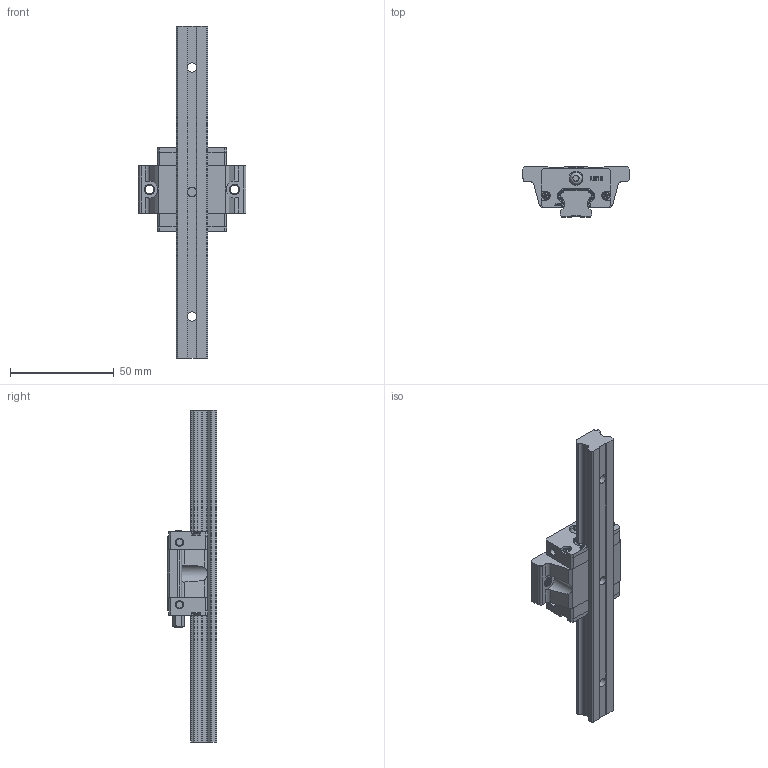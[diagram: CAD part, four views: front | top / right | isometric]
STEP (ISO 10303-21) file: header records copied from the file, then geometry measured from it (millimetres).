
FILE_DESCRIPTION(/* description */ (''),/* implementation_level */ '2;1');
FILE_NAME(/* name */ 'EBW15SA.stp',/* time_stamp */ '2024-09-29T20:43:58+08:00',/* author */ (''),/* organization */ (''),/* preprocessor_version */ 'ST-DEVELOPER v16.7',/* originating_system */ 'SIEMENS PLM Software NX 12.0',/* authorisation */ '');
FILE_SCHEMA (('AUTOMOTIVE_DESIGN { 1 0 10303 214 3 1 1 1 }'));
Length unit declared in the file: millimetre
Products named in the file (3): EBW15SA; EBR15; EBW15SA_stp
Assembly tree (2 placements, depth 2):
  EBW15SA_stp
    EBR15
    EBW15SA
Bounding box: 52 x 24 x 160 mm (x, y, z)
Volume: 50134.2 mm3; surface area: 18313.6 mm2
Topology: 2 solids, 3 shells, 842 faces, 2268 edges, 1485 vertices
Faces by surface type: plane 516, cylinder 160, extrusion 108, cone 41, bspline 11, torus 6
Full cylindrical faces by diameter (mm): 1.5 x1, 3.3 x4, 3.9 x2, 4 x2, 6 x1, 6.7 x2
Entity records: 39536 total; most frequent: CARTESIAN_POINT 13047, ORIENTED_EDGE 4478, DIRECTION 3804, EDGE_CURVE 2239, VECTOR 1534, VERTEX_POINT 1485, LINE 1426, AXIS2_PLACEMENT_3D 1135
